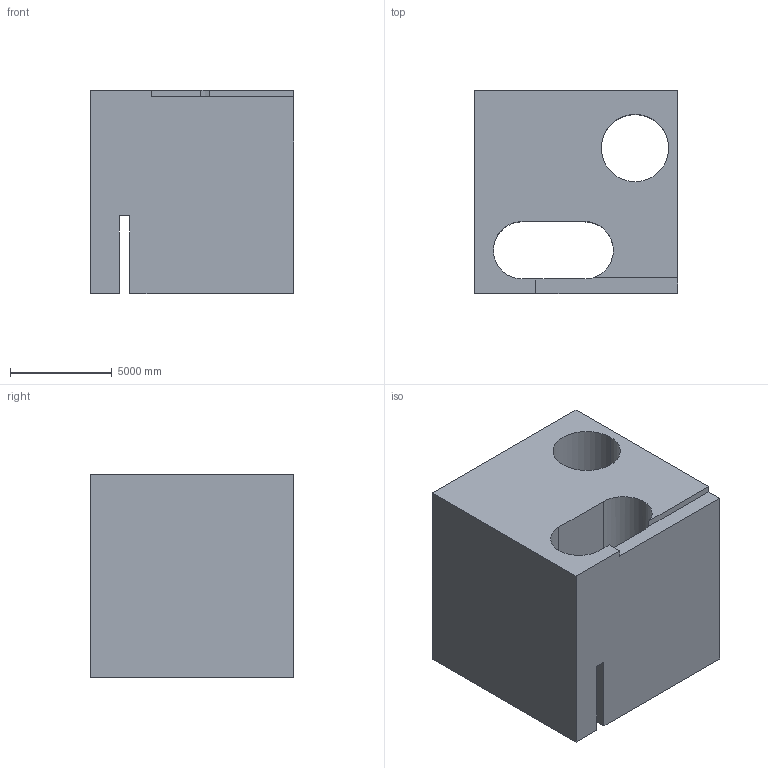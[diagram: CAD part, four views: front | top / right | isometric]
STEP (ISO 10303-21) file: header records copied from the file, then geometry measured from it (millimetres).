
FILE_DESCRIPTION (( 'STEP AP203' ), '1' );
FILE_NAME ('31.STEP', '2022-09-02T13:44:52', ( 'user' ), ( '' ), 'SwSTEP 2.0', 'SolidWorks 2021', '' );
FILE_SCHEMA (( 'CONFIG_CONTROL_DESIGN' ));
Length unit declared in the file: centimetre
Products named in the file (1): 31
Bounding box: 10000 x 10000 x 10000 mm (x, y, z)
Volume: 747539678953.1 mm3; surface area: 854976870.8 mm2
Topology: 1 solids, 1 shells, 23 faces, 69 edges, 46 vertices
Faces by surface type: plane 18, cylinder 5
Entity records: 863 total; most frequent: CARTESIAN_POINT 139, ORIENTED_EDGE 138, DIRECTION 132, EDGE_CURVE 69, LINE 54, VECTOR 54, VERTEX_POINT 46, AXIS2_PLACEMENT_3D 39
